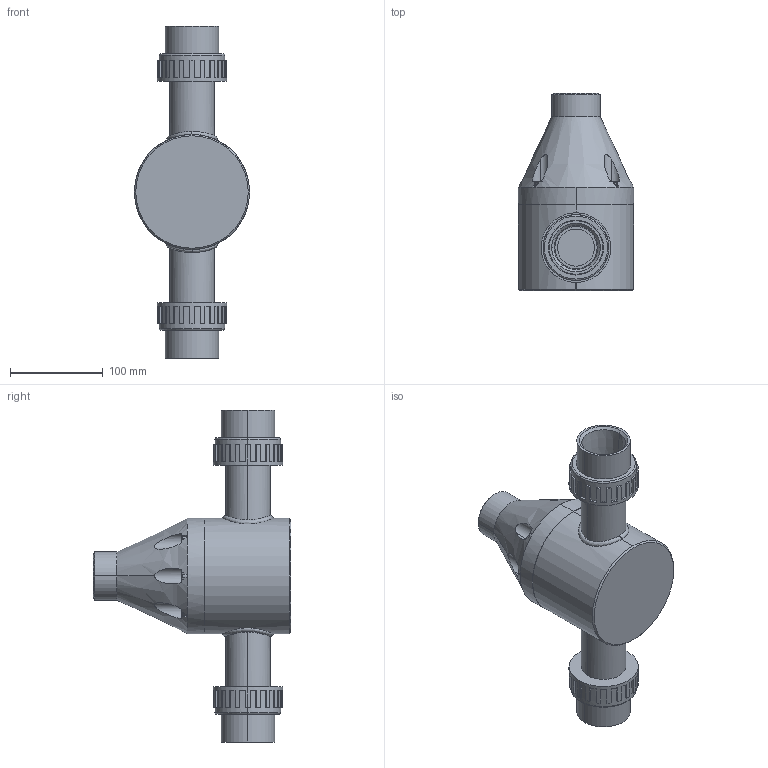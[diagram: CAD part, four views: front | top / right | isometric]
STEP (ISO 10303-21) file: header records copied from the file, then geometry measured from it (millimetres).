
FILE_DESCRIPTION (( 'STEP AP203' ), '1' );
FILE_NAME ('GBP1500-UNION.STEP', '2016-09-16T00:31:20', ( '' ), ( '' ), 'SwSTEP 2.0', 'SolidWorks 2014', '' );
FILE_SCHEMA (( 'CONFIG_CONTROL_DESIGN' ));
Length unit declared in the file: inch
Products named in the file (2): GBP1500-UNION
Bounding box: 124.46 x 213.36 x 358.65 mm (x, y, z)
Volume: 2256979.7 mm3; surface area: 180183.5 mm2
Topology: 1 solids, 1 shells, 397 faces, 1059 edges, 691 vertices
Faces by surface type: plane 295, cylinder 60, cone 20, torus 16, bspline 6
Entity records: 15754 total; most frequent: CARTESIAN_POINT 5543, ORIENTED_EDGE 2118, DIRECTION 2116, EDGE_CURVE 1059, AXIS2_PLACEMENT_3D 737, VERTEX_POINT 691, VECTOR 642, LINE 642
